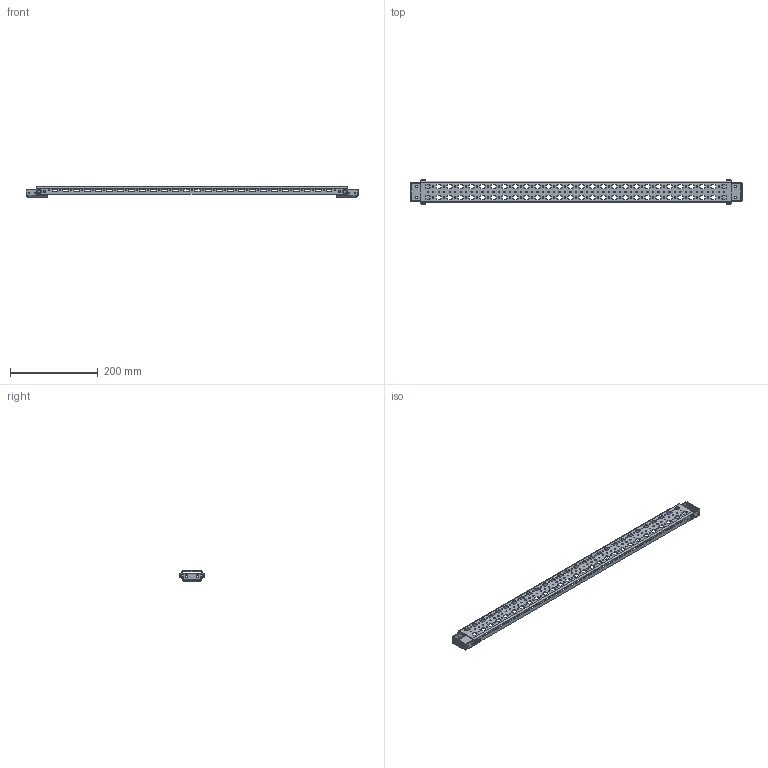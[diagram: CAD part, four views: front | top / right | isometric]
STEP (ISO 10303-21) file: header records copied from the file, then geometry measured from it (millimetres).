
FILE_DESCRIPTION (( 'STEP AP203' ), '1' );
FILE_NAME ('MRD 80.06 L Ðåéêà ìîíòàæíàÿ (äåðæàòåëè âûäâèíóòû).STEP', '2025-05-15T12:14:15', ( '' ), ( '' ), 'SwSTEP 2.0', 'SolidWorks 2019', '' );
FILE_SCHEMA (( 'CONFIG_CONTROL_DESIGN' ));
Length unit declared in the file: millimetre
Products named in the file (4): MRD 80.06 L Ðåéêà ìîíòàæíàÿ (äåðæàòåëè âûäâèíóòû); MRD X.06.001 L Ðåéêà ìîíòàæíàÿ_MRD 80.06.001 L; MRD X.06.002 L Êðîíøòåéí ðåéêè; 妈眚 襦祛磬疱玎栝_4,8x11
Assembly tree (7 placements, depth 2):
  MRD 80.06 L Ðåéêà ìîíòàæíàÿ (äåðæàòåëè âûäâèíóòû)
    MRD X.06.001 L Ðåéêà ìîíòàæíàÿ_MRD 80.06.001 L
    MRD X.06.002 L Êðîíøòåéí ðåéêè  x2
    妈眚 襦祛磬疱玎栝_4,8x11  x4
Bounding box: 756 x 58 x 23 mm (x, y, z)
Volume: 105834.1 mm3; surface area: 122458 mm2
Topology: 7 solids, 7 shells, 2420 faces, 7134 edges, 4728 vertices
Faces by surface type: cylinder 1366, plane 1010, bspline 24, cone 20
Entity records: 78670 total; most frequent: CARTESIAN_POINT 14474, DIRECTION 13641, ORIENTED_EDGE 13328, EDGE_CURVE 6664, AXIS2_PLACEMENT_3D 4790, VERTEX_POINT 4429, VECTOR 4061, LINE 4061
